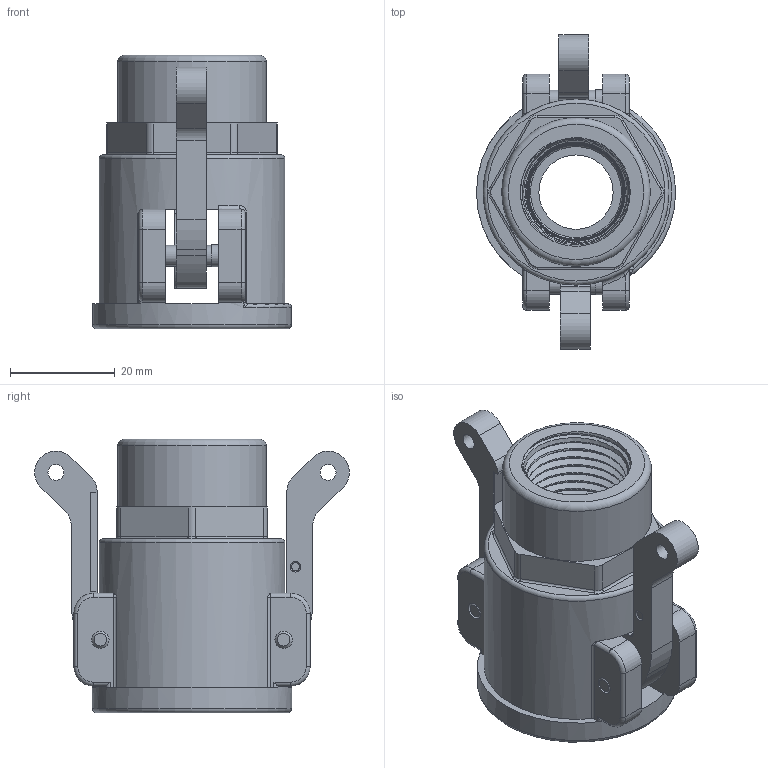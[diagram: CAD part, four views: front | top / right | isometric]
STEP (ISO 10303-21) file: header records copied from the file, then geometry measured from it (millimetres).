
FILE_DESCRIPTION(/* description */ ('Alibre Inc.'),/* implementation_level */ '2;1');
FILE_NAME(/* name */ 'export0',/* time_stamp */ '2016-04-04T10:26:07-04:00',/* author */ (''),/* organization */ (''),/* preprocessor_version */ 'ST-DEVELOPER v14',/* originating_system */ 'Alibre',/* authorisation */ '');
FILE_SCHEMA (('CONFIG_CONTROL_DESIGN'));
Length unit declared in the file: centimetre
Products named in the file (5): ID_1; ID_2; ID_3
Bounding box: 38.1 x 60.17 x 52.32 mm (x, y, z)
Volume: 30639.5 mm3; surface area: 17237.9 mm2
Topology: 6 solids, 6 shells, 210 faces, 530 edges, 338 vertices
Faces by surface type: plane 73, cylinder 71, cone 34, torus 24, bspline 8
Full cylindrical faces by diameter (mm): 3.048 x2, 3.302 x4, 3.962 x2, 4.216 x2, 4.242 x2, 14.224 x1, 17.272 x1, 24.892 x1, 26.924 x1, 27.686 x1, 28.448 x1, 35.56 x1, 38.1 x1
Entity records: 28378 total; most frequent: CARTESIAN_POINT 23729, ORIENTED_EDGE 872, DIRECTION 768, EDGE_CURVE 436, AXIS2_PLACEMENT_3D 334, VERTEX_POINT 290, EDGE_LOOP 230, FACE_BOUND 230
